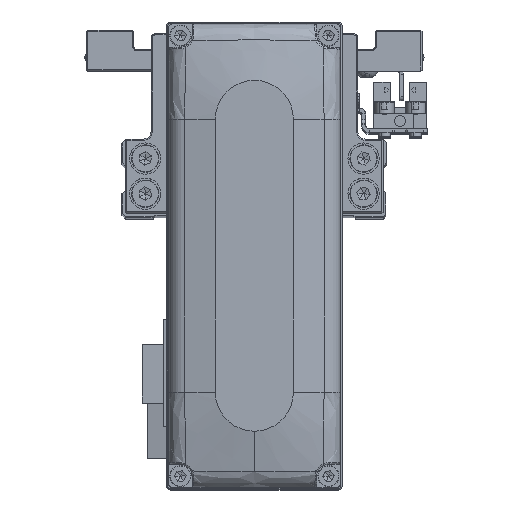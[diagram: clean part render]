
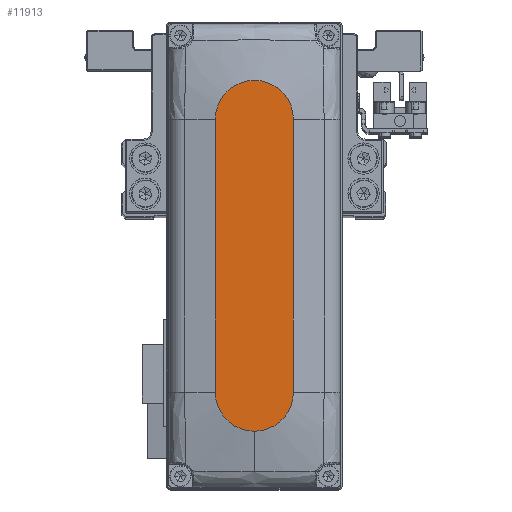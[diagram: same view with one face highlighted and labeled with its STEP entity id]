
A CAD part, top view. The second image highlights one B-rep face of the part: STEP entity #11913.
In plain terms, the highlighted planar face has unit normal (0, 0, 1).
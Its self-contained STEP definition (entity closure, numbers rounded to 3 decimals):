
#740 = ORIENTED_EDGE ( 'NONE', *, *, #7128, .T. ) ;
#1004 = CARTESIAN_POINT ( 'NONE',  ( 35., 0., 28. ) ) ;
#1066 = DIRECTION ( 'NONE',  ( 0., 0., 1. ) ) ;
#3089 = CARTESIAN_POINT ( 'NONE',  ( 35., -10., 28. ) ) ;
#3513 = DIRECTION ( 'NONE',  ( 1., 0., 0. ) ) ;
#3760 = DIRECTION ( 'NONE',  ( -1., 0., 0. ) ) ;
#3763 = DIRECTION ( 'NONE',  ( 0., 0., 1. ) ) ;
#4016 = ORIENTED_EDGE ( 'NONE', *, *, #30270, .T. ) ;
#6219 = CARTESIAN_POINT ( 'NONE',  ( 35., 0., 28. ) ) ;
#6659 = FACE_OUTER_BOUND ( 'NONE', #7929, .T. ) ;
#7128 = EDGE_CURVE ( 'NONE', #22438, #13781, #10740, .T. ) ;
#7929 = EDGE_LOOP ( 'NONE', ( #35162, #34180, #18245, #740, #4016 ) ) ;
#8200 = AXIS2_PLACEMENT_3D ( 'NONE', #27511, #1066, #12850 ) ;
#9288 = CIRCLE ( 'NONE', #35780, 10. ) ;
#10492 = AXIS2_PLACEMENT_3D ( 'NONE', #30216, #3763, #15550 ) ;
#10740 = CIRCLE ( 'NONE', #32303, 10. ) ;
#11594 = EDGE_CURVE ( 'NONE', #37799, #22438, #18203, .T. ) ;
#11913 = ADVANCED_FACE ( 'NONE', ( #6659 ), #18446, .T. ) ;
#12783 = DIRECTION ( 'NONE',  ( 0., 0., 1. ) ) ;
#12850 = DIRECTION ( 'NONE',  ( 1., 0., 0. ) ) ;
#13781 = VERTEX_POINT ( 'NONE', #16839 ) ;
#14297 = EDGE_CURVE ( 'NONE', #35688, #37799, #24856, .T. ) ;
#15550 = DIRECTION ( 'NONE',  ( 1., 0., 0. ) ) ;
#16839 = CARTESIAN_POINT ( 'NONE',  ( 45., 0., 28. ) ) ;
#17994 = DIRECTION ( 'NONE',  ( 0., 0., 1. ) ) ;
#18203 = LINE ( 'NONE', #29956, #23386 ) ;
#18245 = ORIENTED_EDGE ( 'NONE', *, *, #11594, .T. ) ;
#18444 = LINE ( 'NONE', #30214, #23384 ) ;
#18446 = PLANE ( 'NONE',  #10492 ) ;
#21022 = CARTESIAN_POINT ( 'NONE',  ( -35., 10., 28. ) ) ;
#22438 = VERTEX_POINT ( 'NONE', #3089 ) ;
#22461 = VERTEX_POINT ( 'NONE', #29721 ) ;
#23384 = VECTOR ( 'NONE', #3760, 1000. ) ;
#23386 = VECTOR ( 'NONE', #3513, 1000. ) ;
#23470 = EDGE_CURVE ( 'NONE', #22461, #35688, #18444, .T. ) ;
#24567 = DIRECTION ( 'NONE',  ( 1., 0., 0. ) ) ;
#24856 = CIRCLE ( 'NONE', #8200, 10. ) ;
#26726 = CARTESIAN_POINT ( 'NONE',  ( -35., -10., 28. ) ) ;
#27511 = CARTESIAN_POINT ( 'NONE',  ( -35., 0., 28. ) ) ;
#29721 = CARTESIAN_POINT ( 'NONE',  ( 35., 10., 28. ) ) ;
#29750 = DIRECTION ( 'NONE',  ( 1., 0., 0. ) ) ;
#29956 = CARTESIAN_POINT ( 'NONE',  ( -35., -10., 28. ) ) ;
#30214 = CARTESIAN_POINT ( 'NONE',  ( -35., 10., 28. ) ) ;
#30216 = CARTESIAN_POINT ( 'NONE',  ( 0., 0., 28. ) ) ;
#30270 = EDGE_CURVE ( 'NONE', #13781, #22461, #9288, .T. ) ;
#32303 = AXIS2_PLACEMENT_3D ( 'NONE', #1004, #12783, #24567 ) ;
#34180 = ORIENTED_EDGE ( 'NONE', *, *, #14297, .T. ) ;
#35162 = ORIENTED_EDGE ( 'NONE', *, *, #23470, .T. ) ;
#35688 = VERTEX_POINT ( 'NONE', #21022 ) ;
#35780 = AXIS2_PLACEMENT_3D ( 'NONE', #6219, #17994, #29750 ) ;
#37799 = VERTEX_POINT ( 'NONE', #26726 ) ;
